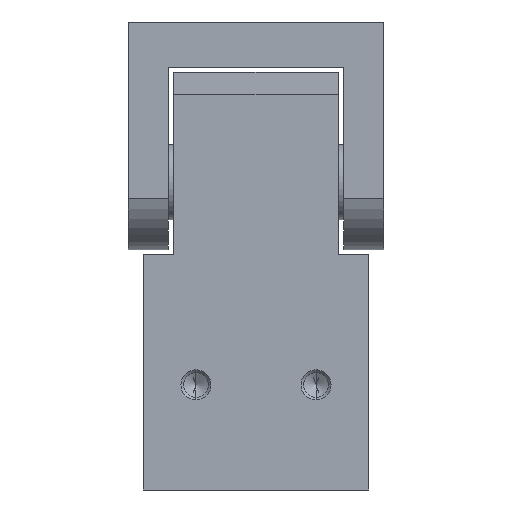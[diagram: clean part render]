
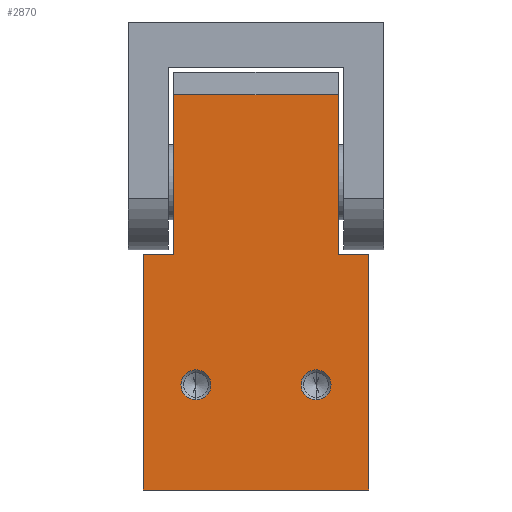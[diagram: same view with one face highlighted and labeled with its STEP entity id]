
A CAD part, left-side view. The second image highlights one B-rep face of the part: STEP entity #2870.
In plain terms, the highlighted planar face has unit normal (-1, 0, 0).
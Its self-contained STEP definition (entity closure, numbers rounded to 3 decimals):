
#202 = VECTOR ( 'NONE', #4168, 1000. ) ;
#356 = LINE ( 'NONE', #6133, #4497 ) ;
#383 = CARTESIAN_POINT ( 'NONE',  ( -29., 12., 18. ) ) ;
#423 = CARTESIAN_POINT ( 'NONE',  ( -29., 12., 21. ) ) ;
#514 = ORIENTED_EDGE ( 'NONE', *, *, #1175, .T. ) ;
#720 = FACE_OUTER_BOUND ( 'NONE', #6186, .T. ) ;
#760 = VECTOR ( 'NONE', #3398, 1000. ) ;
#778 = CARTESIAN_POINT ( 'NONE',  ( -29., -16.45, 47. ) ) ;
#790 = FACE_BOUND ( 'NONE', #3228, .T. ) ;
#841 = DIRECTION ( 'NONE',  ( 0., 0., -1. ) ) ;
#888 = DIRECTION ( 'NONE',  ( 1., 0., 0. ) ) ;
#1012 = CARTESIAN_POINT ( 'NONE',  ( -29., 16.45, 47. ) ) ;
#1175 = EDGE_CURVE ( 'NONE', #2179, #3712, #4875, .T. ) ;
#1205 = EDGE_CURVE ( 'NONE', #5316, #2531, #4761, .T. ) ;
#1257 = CARTESIAN_POINT ( 'NONE',  ( -29., -22.5, 47. ) ) ;
#1278 = CARTESIAN_POINT ( 'NONE',  ( -29., 22.5, 0. ) ) ;
#1331 = LINE ( 'NONE', #2957, #5319 ) ;
#1398 = CARTESIAN_POINT ( 'NONE',  ( -29., 12., 21. ) ) ;
#1431 = DIRECTION ( 'NONE',  ( 0., 0., -1. ) ) ;
#1478 = CARTESIAN_POINT ( 'NONE',  ( -29., -16.45, 47. ) ) ;
#1508 = CIRCLE ( 'NONE', #2322, 3. ) ;
#1634 = DIRECTION ( 'NONE',  ( 1., 0., 0. ) ) ;
#1785 = EDGE_CURVE ( 'NONE', #3861, #5970, #6250, .T. ) ;
#1843 = DIRECTION ( 'NONE',  ( 0., 0., 1. ) ) ;
#1872 = CARTESIAN_POINT ( 'NONE',  ( -29., -12., 18. ) ) ;
#1892 = AXIS2_PLACEMENT_3D ( 'NONE', #423, #888, #4329 ) ;
#1925 = CARTESIAN_POINT ( 'NONE',  ( -29., -16.45, 79. ) ) ;
#2108 = VECTOR ( 'NONE', #1843, 1000. ) ;
#2125 = VERTEX_POINT ( 'NONE', #1478 ) ;
#2179 = VERTEX_POINT ( 'NONE', #1872 ) ;
#2220 = CIRCLE ( 'NONE', #5312, 3. ) ;
#2223 = CARTESIAN_POINT ( 'NONE',  ( -29., 22.5, 47. ) ) ;
#2239 = CARTESIAN_POINT ( 'NONE',  ( -29., -12., 24. ) ) ;
#2242 = ORIENTED_EDGE ( 'NONE', *, *, #2573, .F. ) ;
#2282 = DIRECTION ( 'NONE',  ( 0., -1., 0. ) ) ;
#2315 = VECTOR ( 'NONE', #2626, 1000. ) ;
#2322 = AXIS2_PLACEMENT_3D ( 'NONE', #1398, #4811, #841 ) ;
#2329 = EDGE_CURVE ( 'NONE', #3674, #5961, #356, .T. ) ;
#2336 = LINE ( 'NONE', #778, #2108 ) ;
#2398 = CARTESIAN_POINT ( 'NONE',  ( -29., 12., 24. ) ) ;
#2531 = VERTEX_POINT ( 'NONE', #3819 ) ;
#2573 = EDGE_CURVE ( 'NONE', #2531, #3046, #6348, .T. ) ;
#2612 = VECTOR ( 'NONE', #3181, 1000. ) ;
#2626 = DIRECTION ( 'NONE',  ( 0., -1., 0. ) ) ;
#2660 = CARTESIAN_POINT ( 'NONE',  ( -29., 22.5, 47. ) ) ;
#2690 = ORIENTED_EDGE ( 'NONE', *, *, #4668, .T. ) ;
#2703 = LINE ( 'NONE', #1278, #2827 ) ;
#2738 = DIRECTION ( 'NONE',  ( 1., 0., 0. ) ) ;
#2781 = EDGE_LOOP ( 'NONE', ( #5292, #514 ) ) ;
#2798 = FACE_BOUND ( 'NONE', #2781, .T. ) ;
#2827 = VECTOR ( 'NONE', #2282, 1000. ) ;
#2870 = ADVANCED_FACE ( 'NONE', ( #720, #2798, #790 ), #5176, .F. ) ;
#2878 = EDGE_CURVE ( 'NONE', #3712, #2179, #2220, .T. ) ;
#2957 = CARTESIAN_POINT ( 'NONE',  ( -29., -22.5, 47. ) ) ;
#3046 = VERTEX_POINT ( 'NONE', #1925 ) ;
#3070 = ORIENTED_EDGE ( 'NONE', *, *, #3753, .F. ) ;
#3125 = ORIENTED_EDGE ( 'NONE', *, *, #4091, .T. ) ;
#3181 = DIRECTION ( 'NONE',  ( 0., -1., 0. ) ) ;
#3228 = EDGE_LOOP ( 'NONE', ( #5089, #4731 ) ) ;
#3398 = DIRECTION ( 'NONE',  ( 0., -1., 0. ) ) ;
#3448 = EDGE_CURVE ( 'NONE', #6189, #3503, #1331, .T. ) ;
#3503 = VERTEX_POINT ( 'NONE', #5393 ) ;
#3674 = VERTEX_POINT ( 'NONE', #4120 ) ;
#3712 = VERTEX_POINT ( 'NONE', #2239 ) ;
#3727 = CARTESIAN_POINT ( 'NONE',  ( -29., 22.5, 47. ) ) ;
#3753 = EDGE_CURVE ( 'NONE', #2125, #6189, #5656, .T. ) ;
#3819 = CARTESIAN_POINT ( 'NONE',  ( -29., 16.45, 79. ) ) ;
#3861 = VERTEX_POINT ( 'NONE', #383 ) ;
#4091 = EDGE_CURVE ( 'NONE', #5961, #3503, #2703, .T. ) ;
#4104 = ORIENTED_EDGE ( 'NONE', *, *, #3448, .F. ) ;
#4120 = CARTESIAN_POINT ( 'NONE',  ( -29., 22.5, 47. ) ) ;
#4157 = ORIENTED_EDGE ( 'NONE', *, *, #4553, .F. ) ;
#4168 = DIRECTION ( 'NONE',  ( 0., 0., 1. ) ) ;
#4205 = DIRECTION ( 'NONE',  ( 1., 0., 0. ) ) ;
#4329 = DIRECTION ( 'NONE',  ( 0., 0., -1. ) ) ;
#4497 = VECTOR ( 'NONE', #6199, 1000. ) ;
#4553 = EDGE_CURVE ( 'NONE', #3674, #5316, #4677, .T. ) ;
#4668 = EDGE_CURVE ( 'NONE', #2125, #3046, #2336, .T. ) ;
#4677 = LINE ( 'NONE', #3727, #2315 ) ;
#4728 = CARTESIAN_POINT ( 'NONE',  ( -29., -12., 21. ) ) ;
#4731 = ORIENTED_EDGE ( 'NONE', *, *, #1785, .T. ) ;
#4761 = LINE ( 'NONE', #6119, #202 ) ;
#4789 = DIRECTION ( 'NONE',  ( 0., 0., -1. ) ) ;
#4811 = DIRECTION ( 'NONE',  ( 1., 0., 0. ) ) ;
#4875 = CIRCLE ( 'NONE', #6323, 3. ) ;
#5089 = ORIENTED_EDGE ( 'NONE', *, *, #5893, .T. ) ;
#5176 = PLANE ( 'NONE',  #6038 ) ;
#5291 = CARTESIAN_POINT ( 'NONE',  ( -29., 22.5, 0. ) ) ;
#5292 = ORIENTED_EDGE ( 'NONE', *, *, #2878, .T. ) ;
#5312 = AXIS2_PLACEMENT_3D ( 'NONE', #4728, #4205, #4789 ) ;
#5316 = VERTEX_POINT ( 'NONE', #1012 ) ;
#5319 = VECTOR ( 'NONE', #1431, 1000. ) ;
#5393 = CARTESIAN_POINT ( 'NONE',  ( -29., -22.5, 0. ) ) ;
#5599 = ORIENTED_EDGE ( 'NONE', *, *, #2329, .T. ) ;
#5640 = CARTESIAN_POINT ( 'NONE',  ( -29., -12., 21. ) ) ;
#5656 = LINE ( 'NONE', #2660, #2612 ) ;
#5675 = DIRECTION ( 'NONE',  ( 0., 0., -1. ) ) ;
#5677 = ORIENTED_EDGE ( 'NONE', *, *, #1205, .F. ) ;
#5695 = DIRECTION ( 'NONE',  ( 0., 1., 0. ) ) ;
#5871 = CARTESIAN_POINT ( 'NONE',  ( -29., 16.45, 79. ) ) ;
#5893 = EDGE_CURVE ( 'NONE', #5970, #3861, #1508, .T. ) ;
#5961 = VERTEX_POINT ( 'NONE', #5291 ) ;
#5970 = VERTEX_POINT ( 'NONE', #2398 ) ;
#6038 = AXIS2_PLACEMENT_3D ( 'NONE', #2223, #2738, #5695 ) ;
#6119 = CARTESIAN_POINT ( 'NONE',  ( -29., 16.45, 47. ) ) ;
#6133 = CARTESIAN_POINT ( 'NONE',  ( -29., 22.5, 47. ) ) ;
#6186 = EDGE_LOOP ( 'NONE', ( #3125, #4104, #3070, #2690, #2242, #5677, #4157, #5599 ) ) ;
#6189 = VERTEX_POINT ( 'NONE', #1257 ) ;
#6199 = DIRECTION ( 'NONE',  ( 0., 0., -1. ) ) ;
#6250 = CIRCLE ( 'NONE', #1892, 3. ) ;
#6323 = AXIS2_PLACEMENT_3D ( 'NONE', #5640, #1634, #5675 ) ;
#6348 = LINE ( 'NONE', #5871, #760 ) ;
